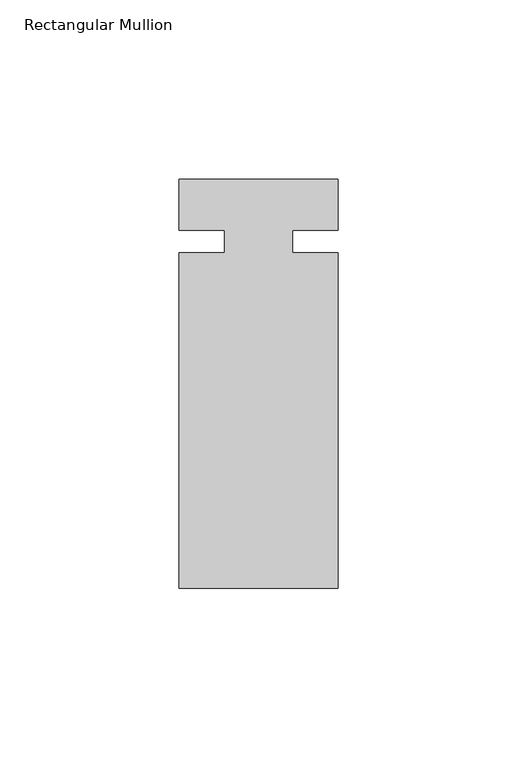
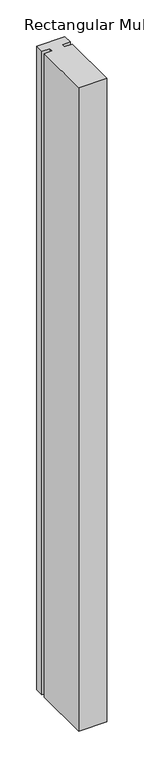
"""IFC4 building model written with IfcOpenShell, lengths in millimetres: member geometry, Rectangular Mullion : Kawneer-TRIFAB_VG_450_BACK_SB_Horizontal."""

from ifc_helpers import new_model, si_unit, frame, origin, place, context, project, spatial, polyline, outline, extrude, source, transform, mapped, element, save


def rectangular_mullion_1bf71cb2(model_context):
    return source(origin(), model_context, "Body", "SweptSolid", [
        extrude(outline(polyline([(26.5594027, 17.4625), (26.5594027, 3.2050658), (13.8576322, 3.2050658), (13.8576322, -3.1449342), (26.5594027, -3.1449342), (26.5594027, -96.8375), (-17.8905973, -96.8375), (-17.8905973, -3.1449342), (-5.1905973, -3.1449342), (-5.1905973, 3.2050658), (-17.8905973, 3.2050658), (-17.8905973, 17.4625), (26.5594027, 17.4625)])), frame((0.0, 0.0, -1070.7844133), z_axis=(0.0, 0.0, 1.0), x_axis=(1.0, 0.0, 0.0)), (0.0, 0.0, 1.0), 1070.7844133),
    ])


if __name__ == "__main__":
    model = new_model("IFC4")
    model_context = context("Model", 3, world=origin())
    ifc_project = project(units=[si_unit("LENGTHUNIT", "METRE", prefix="MILLI")], contexts=[model_context])
    site = spatial("IfcSite", under=ifc_project)
    building = spatial("IfcBuilding", under=site)
    placement = place(None, origin())
    rectangular_mullion_shape = rectangular_mullion_1bf71cb2(model_context)
    element("IfcMember", 1, ObjectType="Rectangular Mullion : Kawneer-TRIFAB_VG_450_BACK_SB_Horizontal", at=placement, inside=building, context=model_context, shape_type="MappedRepresentation", body=[
        mapped(rectangular_mullion_shape, transform((0.0, 0.0, 0.0), x_axis=(1.0, 0.0, 0.0), y_axis=(0.0, 1.0, 0.0), z_axis=(0.0, 0.0, 1.0))),
    ])
    save(model, "model.ifc")
